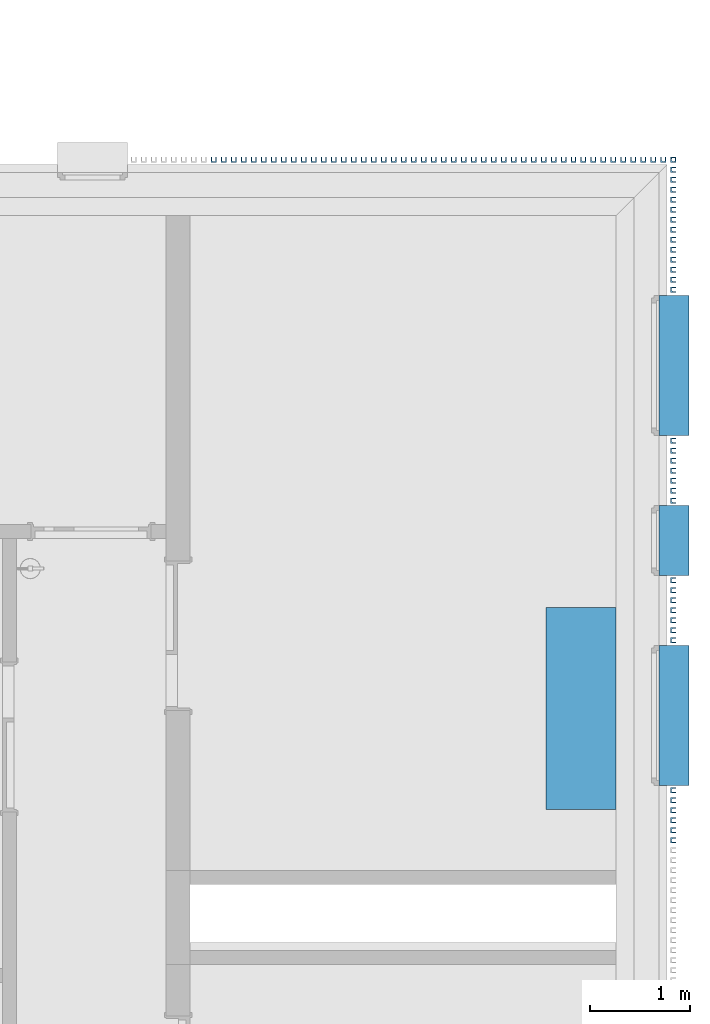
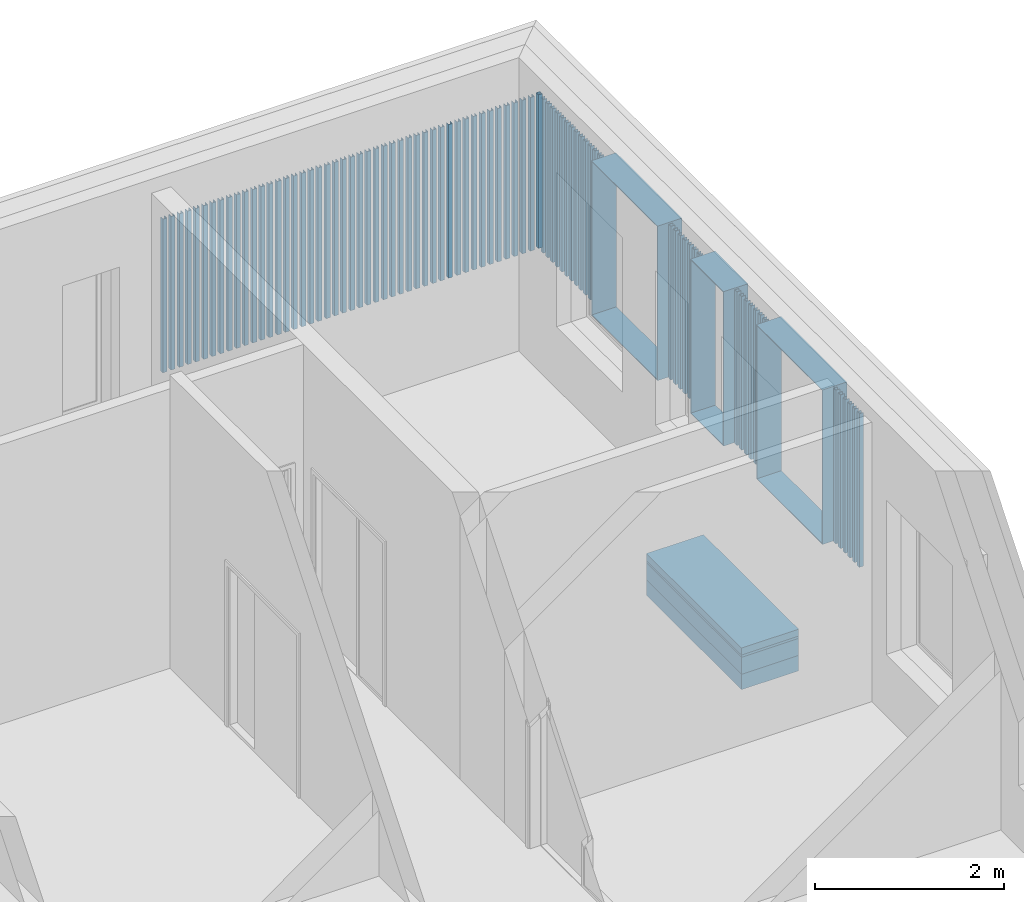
# One storey, part 48 of 100: 86 discrete accessories, 4 building element parts, 1 element without a shape of its own.
"""IFC2X3 building model written with IfcOpenShell, lengths in millimetres."""

from ifc_helpers import new_model, entity, si_unit, converted_unit, derived_unit, money_unit, direction, frame, origin_with_axes, place, context, subcontext, project, spatial, polyline, outline, extrude, faceted_brep, source, transform, mapped, material, type_object, element, aggregate, save


model = new_model("IFC2X3")

# Units and contexts
model_context = context("Model", 3, precision=0.01, world=origin_with_axes(), true_north=direction((0.0, 1.0)))
body_context = subcontext(model_context, "Body", "Model", "MODEL_VIEW")
ifc_project = project(units=[si_unit("LENGTHUNIT", "METRE", prefix="MILLI"), si_unit("AREAUNIT", "SQUARE_METRE"), si_unit("VOLUMEUNIT", "CUBIC_METRE"), converted_unit("PLANEANGLEUNIT", "DEGREE", entity("IfcPlaneAngleMeasure", 0.0174532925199), si_unit("PLANEANGLEUNIT", "RADIAN"), dimensions=[0, 0, 0, 0, 0, 0, 0]), si_unit("SOLIDANGLEUNIT", "STERADIAN"), money_unit("EUR"), converted_unit("TIMEUNIT", "Year", entity("IfcTimeMeasure", 31556926.0), si_unit("TIMEUNIT", "SECOND"), dimensions=[0, 0, 1, 0, 0, 0, 0]), si_unit("MASSUNIT", "GRAM", prefix="KILO"), si_unit("THERMODYNAMICTEMPERATUREUNIT", "DEGREE_CELSIUS"), si_unit("LUMINOUSINTENSITYUNIT", "LUMEN"), si_unit("ENERGYUNIT", "JOULE", prefix="MEGA"), derived_unit("THERMALCONDUCTANCEUNIT", [(si_unit("POWERUNIT", "WATT"), 1), (si_unit("LENGTHUNIT", "METRE"), -1), (si_unit("THERMODYNAMICTEMPERATUREUNIT", "KELVIN"), -1)]), derived_unit("SPECIFICHEATCAPACITYUNIT", [(si_unit("ENERGYUNIT", "JOULE"), 1), (si_unit("MASSUNIT", "GRAM", prefix="KILO"), -1), (si_unit("THERMODYNAMICTEMPERATUREUNIT", "KELVIN"), -1)]), derived_unit("MASSDENSITYUNIT", [(si_unit("MASSUNIT", "GRAM", prefix="KILO"), 1), (si_unit("VOLUMEUNIT", "CUBIC_METRE"), -1)])], contexts=[model_context])

# Site, building, storey
site_placement = place(None, origin_with_axes())
site = spatial("IfcSite", under=ifc_project, at=site_placement, Name="Politse- ja Piirivalveameti ning Päästeameti ühishoone", CompositionType="ELEMENT")
building_placement = place(site_placement, origin_with_axes())
building = spatial("IfcBuilding", under=site, at=building_placement, Name="Politse- ja Piirivalveameti ning Päästeameti ühishoone", CompositionType="ELEMENT")
storey_placement = place(building_placement, frame((0.0, 0.0, 3800.0), z_axis=(0.0, 0.0, 1.0), x_axis=(1.0, 0.0, 0.0)))
storey = spatial("IfcBuildingStorey", under=building, at=storey_placement, Name="Teine korrus", CompositionType="ELEMENT", Elevation=3800.0)

# Discrete accessories
ifc_material_1 = material(Name="SV-01_Krohv - Kips")
discrete_accessory_type_1 = type_object("IfcDiscreteAccessoryType", Name="Architrave 01 23")
shared_shape_1 = source(origin_with_axes(), body_context, "Body", "Brep", [
    faceted_brep([(-350.0, 0.0, -10.0), (350.0, 0.0, -10.0), (350.0, -300.182356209, -10.0), (-350.0, -300.182356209, -10.0), (-340.0, 0.0, 0.0), (340.0, 0.0, 0.0), (340.0, -300.182356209, 0.0), (-340.0, -300.182356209, 0.0)], [[[0, 1, 2, 3]], [[0, 4, 5, 1]], [[1, 5, 6, 2]], [[3, 2, 6, 7]], [[4, 0, 3, 7]], [[5, 4, 7, 6]]]),
    faceted_brep([(350.0, 0.0, -10.0), (350.0, 0.0, 1990.0), (350.0, -300.182356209, 1990.0), (350.0, -300.182356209, -10.0), (340.0, 0.0, 0.0), (340.0, 0.0, 1980.0), (340.0, -300.182356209, 1980.0), (340.0, -300.182356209, 0.0)], [[[0, 1, 2, 3]], [[0, 4, 5, 1]], [[1, 5, 6, 2]], [[3, 2, 6, 7]], [[4, 0, 3, 7]], [[5, 4, 7, 6]]]),
    faceted_brep([(350.0, 0.0, 1990.0), (-350.0, 0.0, 1990.0), (-350.0, -300.182356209, 1990.0), (350.0, -300.182356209, 1990.0), (340.0, 0.0, 1980.0), (-340.0, 0.0, 1980.0), (-340.0, -300.182356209, 1980.0), (340.0, -300.182356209, 1980.0)], [[[0, 1, 2, 3]], [[0, 4, 5, 1]], [[1, 5, 6, 2]], [[3, 2, 6, 7]], [[4, 0, 3, 7]], [[5, 4, 7, 6]]]),
    faceted_brep([(-350.0, 0.0, 1990.0), (-350.0, 0.0, -10.0), (-350.0, -300.182356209, -10.0), (-350.0, -300.182356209, 1990.0), (-340.0, 0.0, 1980.0), (-340.0, 0.0, 0.0), (-340.0, -300.182356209, 0.0), (-340.0, -300.182356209, 1980.0)], [[[0, 1, 2, 3]], [[0, 4, 5, 1]], [[1, 5, 6, 2]], [[3, 2, 6, 7]], [[4, 0, 3, 7]], [[5, 4, 7, 6]]]),
])
discrete_accessory_placement = place(storey_placement, frame((70090.5664257, 34249.9520832, 810.0), z_axis=(0.0, 0.0, 1.0), x_axis=(0.0, 1.0, 0.0)))
element("IfcDiscreteAccessory", 1, at=discrete_accessory_placement, inside=storey, type_object=discrete_accessory_type_1, material=ifc_material_1, Name="AKNARAAM 01", context=body_context, shape_type="MappedRepresentation", body=[
    mapped(shared_shape_1, transform((0.0, 0.0, 0.0))),
])
shared_shape_2 = source(origin_with_axes(), body_context, "Body", "Brep", [
    faceted_brep([(-700.0, 0.0, -10.0), (700.0, 0.0, -10.0), (700.0, -300.182356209, -10.0), (-700.0, -300.182356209, -10.0), (-690.0, 0.0, 0.0), (690.0, 0.0, 0.0), (690.0, -300.182356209, 0.0), (-690.0, -300.182356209, 0.0)], [[[0, 1, 2, 3]], [[0, 4, 5, 1]], [[1, 5, 6, 2]], [[3, 2, 6, 7]], [[4, 0, 3, 7]], [[5, 4, 7, 6]]]),
    faceted_brep([(700.0, 0.0, -10.0), (700.0, 0.0, 1990.0), (700.0, -300.182356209, 1990.0), (700.0, -300.182356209, -10.0), (690.0, 0.0, 0.0), (690.0, 0.0, 1980.0), (690.0, -300.182356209, 1980.0), (690.0, -300.182356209, 0.0)], [[[0, 1, 2, 3]], [[0, 4, 5, 1]], [[1, 5, 6, 2]], [[3, 2, 6, 7]], [[4, 0, 3, 7]], [[5, 4, 7, 6]]]),
    faceted_brep([(700.0, 0.0, 1990.0), (-700.0, 0.0, 1990.0), (-700.0, -300.182356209, 1990.0), (700.0, -300.182356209, 1990.0), (690.0, 0.0, 1980.0), (-690.0, 0.0, 1980.0), (-690.0, -300.182356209, 1980.0), (690.0, -300.182356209, 1980.0)], [[[0, 1, 2, 3]], [[0, 4, 5, 1]], [[1, 5, 6, 2]], [[3, 2, 6, 7]], [[4, 0, 3, 7]], [[5, 4, 7, 6]]]),
    faceted_brep([(-700.0, 0.0, 1990.0), (-700.0, 0.0, -10.0), (-700.0, -300.182356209, -10.0), (-700.0, -300.182356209, 1990.0), (-690.0, 0.0, 1980.0), (-690.0, 0.0, 0.0), (-690.0, -300.182356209, 0.0), (-690.0, -300.182356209, 1980.0)], [[[0, 1, 2, 3]], [[0, 4, 5, 1]], [[1, 5, 6, 2]], [[3, 2, 6, 7]], [[4, 0, 3, 7]], [[5, 4, 7, 6]]]),
])
for number, where, z_axis, x_axis, name in (
    (2, (70090.5664257, 32500.0702441, 810.0), (0.0, 0.0, 1.0), (0.0, 1.0, 0.0), "AKNARAAM 01"),
    (3, (70090.5664257, 35999.9520832, 810.0), (0.0, 0.0, 1.0), (0.0, 1.0, 0.0), "AKNARAAM 01"),
):
    element("IfcDiscreteAccessory", number, at=place(storey_placement, frame(where, z_axis=z_axis, x_axis=x_axis)), inside=storey, type_object=discrete_accessory_type_1, material=ifc_material_1, Name=name, context=body_context, shape_type="MappedRepresentation", body=[
        mapped(shared_shape_2, transform((0.0, 0.0, 0.0))),
    ])
ifc_material_2 = material(Name="ET-05_Teras")
discrete_accessory_type_2 = type_object("IfcDiscreteAccessoryType", Name="UAP Column 23")
shared_shape_3 = source(origin_with_axes(), body_context, "Body", "Brep", [
    faceted_brep([(25.0, -25.0, 0.0), (25.0, -20.0, 0.0), (25.0, -20.0, 1990.0), (25.0, -25.0, 1990.0), (-25.0, -25.0, 0.0), (-25.0, 25.0, 0.0), (25.0, 25.0, 0.0), (25.0, 20.0, 0.0), (-8.5, 20.0, 0.0), (-14.25, 18.4592921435, 0.0), (-18.4592921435, 14.25, 0.0), (-20.0, 8.5, 0.0), (-20.0, -8.5, 0.0), (-18.4592921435, -14.25, 0.0), (-14.25, -18.4592921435, 0.0), (-8.5, -20.0, 0.0), (-8.5, -20.0, 1990.0), (-14.25, -18.4592921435, 1990.0), (-18.4592921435, -14.25, 1990.0), (-20.0, -8.5, 1990.0), (-20.0, 8.5, 1990.0), (-18.4592921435, 14.25, 1990.0), (-14.25, 18.4592921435, 1990.0), (-8.5, 20.0, 1990.0), (25.0, 20.0, 1990.0), (25.0, 25.0, 1990.0), (-25.0, 25.0, 1990.0), (-25.0, -25.0, 1990.0)], [[[0, 1, 2, 3]], [[0, 4, 5, 6, 7, 8, 9, 10, 11, 12, 13, 14, 15, 1]], [[1, 15, 16, 2]], [[3, 2, 16, 17, 18, 19, 20, 21, 22, 23, 24, 25, 26, 27]], [[4, 0, 3, 27]], [[5, 4, 27, 26]], [[6, 5, 26, 25]], [[7, 6, 25, 24]], [[8, 7, 24, 23]], [[9, 8, 23, 22]], [[10, 9, 22, 21]], [[11, 10, 21, 20]], [[12, 11, 20, 19]], [[13, 12, 19, 18]], [[14, 13, 18, 17]], [[15, 14, 17, 16]]]),
])
for number, where, z_axis, x_axis in (
    (4, (70235.2095212, 31250.0702441, 810.000049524), (0.0, 0.0, 1.0), (1.0, 0.0, 0.0)),
    (5, (70235.2095212, 31350.0702441, 810.000049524), (0.0, 0.0, 1.0), (1.0, 0.0, 0.0)),
    (6, (70235.2095212, 31450.0702441, 810.000049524), (0.0, 0.0, 1.0), (1.0, 0.0, 0.0)),
    (7, (70235.2095212, 31550.0702441, 810.000049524), (0.0, 0.0, 1.0), (1.0, 0.0, 0.0)),
    (8, (70235.2095212, 31650.0702441, 810.000049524), (0.0, 0.0, 1.0), (1.0, 0.0, 0.0)),
    (9, (70235.2095212, 31750.0702441, 810.000049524), (0.0, 0.0, 1.0), (1.0, 0.0, 0.0)),
    (10, (70235.2095212, 33249.9520832, 810.000049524), (0.0, 0.0, 1.0), (1.0, 0.0, 0.0)),
    (11, (70235.2095212, 33349.9520832, 810.000049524), (0.0, 0.0, 1.0), (1.0, 0.0, 0.0)),
    (12, (70235.2095212, 33449.9520832, 810.000049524), (0.0, 0.0, 1.0), (1.0, 0.0, 0.0)),
    (13, (70235.2095212, 33549.9520832, 810.000049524), (0.0, 0.0, 1.0), (1.0, 0.0, 0.0)),
    (14, (70235.2095212, 33649.9520832, 810.000049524), (0.0, 0.0, 1.0), (1.0, 0.0, 0.0)),
    (15, (70235.2095212, 33749.9520832, 810.000049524), (0.0, 0.0, 1.0), (1.0, 0.0, 0.0)),
    (16, (70235.2095212, 33849.9520832, 810.000049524), (0.0, 0.0, 1.0), (1.0, 0.0, 0.0)),
    (17, (70235.2095212, 34649.9520832, 810.000049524), (0.0, 0.0, 1.0), (1.0, 0.0, 0.0)),
    (18, (70235.2095212, 34749.9520832, 810.000049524), (0.0, 0.0, 1.0), (1.0, 0.0, 0.0)),
    (19, (70235.2095212, 34849.9520832, 810.000049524), (0.0, 0.0, 1.0), (1.0, 0.0, 0.0)),
    (20, (70235.2095212, 34949.9520832, 810.000049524), (0.0, 0.0, 1.0), (1.0, 0.0, 0.0)),
    (21, (70235.2095212, 35049.9520832, 810.000049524), (0.0, 0.0, 1.0), (1.0, 0.0, 0.0)),
    (22, (70235.2095212, 35149.9520832, 810.000049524), (0.0, 0.0, 1.0), (1.0, 0.0, 0.0)),
    (23, (70235.2095212, 35249.9520832, 810.000049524), (0.0, 0.0, 1.0), (1.0, 0.0, 0.0)),
    (24, (70235.2095212, 37259.9520832, 810.000049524), (0.0, 0.0, 1.0), (1.0, 0.0, 0.0)),
    (25, (70235.2095212, 37159.9520832, 810.000049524), (0.0, 0.0, 1.0), (1.0, 0.0, 0.0)),
    (26, (70235.2095212, 37059.9520832, 810.000049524), (0.0, 0.0, 1.0), (1.0, 0.0, 0.0)),
    (27, (70235.2095212, 36959.9520832, 810.000049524), (0.0, 0.0, 1.0), (1.0, 0.0, 0.0)),
    (28, (70235.2095212, 36859.9520832, 810.000049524), (0.0, 0.0, 1.0), (1.0, 0.0, 0.0)),
    (29, (70235.2095212, 36759.9520832, 810.000049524), (0.0, 0.0, 1.0), (1.0, 0.0, 0.0)),
    (30, (70235.2095212, 37859.9520832, 810.000049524), (0.0, 0.0, 1.0), (1.0, 0.0, 0.0)),
    (31, (70235.2095212, 37759.9520832, 810.000049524), (0.0, 0.0, 1.0), (1.0, 0.0, 0.0)),
    (32, (70235.2095212, 37659.9520832, 810.000049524), (0.0, 0.0, 1.0), (1.0, 0.0, 0.0)),
    (33, (70235.2095212, 37559.9520832, 810.000049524), (0.0, 0.0, 1.0), (1.0, 0.0, 0.0)),
    (34, (70235.2095212, 37459.9520832, 810.000049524), (0.0, 0.0, 1.0), (1.0, 0.0, 0.0)),
    (35, (70235.2095212, 37359.9520832, 810.000049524), (0.0, 0.0, 1.0), (1.0, 0.0, 0.0)),
    (36, (70235.2095212, 38059.9520832, 810.000049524), (0.0, 0.0, 1.0), (1.0, 0.0, 0.0)),
    (37, (70235.2095212, 37959.9520832, 810.000049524), (0.0, 0.0, 1.0), (1.0, 0.0, 0.0)),
    (38, (65735.2095212, 38059.9520832, 810.000049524), (0.0, 0.0, 1.0), (0.0, 1.0, 0.0)),
    (39, (65635.2095212, 38059.9520832, 810.000049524), (0.0, 0.0, 1.0), (0.0, 1.0, 0.0)),
    (40, (69635.2095212, 38059.9520832, 810.000049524), (0.0, 0.0, 1.0), (0.0, 1.0, 0.0)),
    (41, (69435.2095212, 38059.9520832, 810.000049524), (0.0, 0.0, 1.0), (0.0, 1.0, 0.0)),
    (42, (69535.2095212, 38059.9520832, 810.000049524), (0.0, 0.0, 1.0), (0.0, 1.0, 0.0)),
    (43, (69335.2095212, 38059.9520832, 810.000049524), (0.0, 0.0, 1.0), (0.0, 1.0, 0.0)),
    (44, (69235.2095212, 38059.9520832, 810.000049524), (0.0, 0.0, 1.0), (0.0, 1.0, 0.0)),
    (45, (69135.2095212, 38059.9520832, 810.000049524), (0.0, 0.0, 1.0), (0.0, 1.0, 0.0)),
    (46, (69735.2095212, 38059.9520832, 810.000049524), (0.0, 0.0, 1.0), (0.0, 1.0, 0.0)),
    (47, (70235.2095212, 38059.9520832, 810.000049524), (0.0, 0.0, 1.0), (1.0, 0.0, 0.0)),
    (48, (69835.2095212, 38059.9520832, 810.000049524), (0.0, 0.0, 1.0), (0.0, 1.0, 0.0)),
    (49, (70035.2095212, 38059.9520832, 810.000049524), (0.0, 0.0, 1.0), (0.0, 1.0, 0.0)),
    (50, (69935.2095212, 38059.9520832, 810.000049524), (0.0, 0.0, 1.0), (0.0, 1.0, 0.0)),
    (51, (70135.2095212, 38059.9520832, 810.000049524), (0.0, 0.0, 1.0), (0.0, 1.0, 0.0)),
    (52, (70235.2095212, 38059.9520832, 810.000049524), (0.0, 0.0, 1.0), (0.0, 1.0, 0.0)),
    (53, (69135.2095212, 38059.9520832, 810.000049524), (0.0, 0.0, 1.0), (0.0, 1.0, 0.0)),
    (54, (69035.2095212, 38059.9520832, 810.000049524), (0.0, 0.0, 1.0), (0.0, 1.0, 0.0)),
    (55, (68935.2095212, 38059.9520832, 810.000049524), (0.0, 0.0, 1.0), (0.0, 1.0, 0.0)),
    (56, (68835.2095212, 38059.9520832, 810.000049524), (0.0, 0.0, 1.0), (0.0, 1.0, 0.0)),
    (57, (68735.2095212, 38059.9520832, 810.000049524), (0.0, 0.0, 1.0), (0.0, 1.0, 0.0)),
    (58, (68635.2095212, 38059.9520832, 810.000049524), (0.0, 0.0, 1.0), (0.0, 1.0, 0.0)),
    (59, (68535.2095212, 38059.9520832, 810.000049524), (0.0, 0.0, 1.0), (0.0, 1.0, 0.0)),
    (60, (68435.2095212, 38059.9520832, 810.000049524), (0.0, 0.0, 1.0), (0.0, 1.0, 0.0)),
    (61, (68335.2095212, 38059.9520832, 810.000049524), (0.0, 0.0, 1.0), (0.0, 1.0, 0.0)),
    (62, (68235.2095212, 38059.9520832, 810.000049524), (0.0, 0.0, 1.0), (0.0, 1.0, 0.0)),
    (63, (68135.2095212, 38059.9520832, 810.000049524), (0.0, 0.0, 1.0), (0.0, 1.0, 0.0)),
    (64, (68035.2095212, 38059.9520832, 810.000049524), (0.0, 0.0, 1.0), (0.0, 1.0, 0.0)),
    (65, (67935.2095212, 38059.9520832, 810.000049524), (0.0, 0.0, 1.0), (0.0, 1.0, 0.0)),
    (66, (67835.2095212, 38059.9520832, 810.000049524), (0.0, 0.0, 1.0), (0.0, 1.0, 0.0)),
    (67, (67735.2095212, 38059.9520832, 810.000049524), (0.0, 0.0, 1.0), (0.0, 1.0, 0.0)),
    (68, (67635.2095212, 38059.9520832, 810.000049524), (0.0, 0.0, 1.0), (0.0, 1.0, 0.0)),
    (69, (67535.2095212, 38059.9520832, 810.000049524), (0.0, 0.0, 1.0), (0.0, 1.0, 0.0)),
    (70, (67435.2095212, 38059.9520832, 810.000049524), (0.0, 0.0, 1.0), (0.0, 1.0, 0.0)),
    (71, (67335.2095212, 38059.9520832, 810.000049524), (0.0, 0.0, 1.0), (0.0, 1.0, 0.0)),
    (72, (67235.2095212, 38059.9520832, 810.000049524), (0.0, 0.0, 1.0), (0.0, 1.0, 0.0)),
    (73, (67135.2095212, 38059.9520832, 810.000049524), (0.0, 0.0, 1.0), (0.0, 1.0, 0.0)),
    (74, (67035.2095212, 38059.9520832, 810.000049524), (0.0, 0.0, 1.0), (0.0, 1.0, 0.0)),
    (75, (66935.2095212, 38059.9520832, 810.000049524), (0.0, 0.0, 1.0), (0.0, 1.0, 0.0)),
    (76, (66835.2095212, 38059.9520832, 810.000049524), (0.0, 0.0, 1.0), (0.0, 1.0, 0.0)),
    (77, (66735.2095212, 38059.9520832, 810.000049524), (0.0, 0.0, 1.0), (0.0, 1.0, 0.0)),
    (78, (66635.2095212, 38059.9520832, 810.000049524), (0.0, 0.0, 1.0), (0.0, 1.0, 0.0)),
    (79, (66535.2095212, 38059.9520832, 810.000049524), (0.0, 0.0, 1.0), (0.0, 1.0, 0.0)),
    (80, (66435.2095212, 38059.9520832, 810.000049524), (0.0, 0.0, 1.0), (0.0, 1.0, 0.0)),
    (81, (66335.2095212, 38059.9520832, 810.000049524), (0.0, 0.0, 1.0), (0.0, 1.0, 0.0)),
    (82, (66235.2095212, 38059.9520832, 810.000049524), (0.0, 0.0, 1.0), (0.0, 1.0, 0.0)),
    (83, (66135.2095212, 38059.9520832, 810.000049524), (0.0, 0.0, 1.0), (0.0, 1.0, 0.0)),
    (84, (66035.2095212, 38059.9520832, 810.000049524), (0.0, 0.0, 1.0), (0.0, 1.0, 0.0)),
    (85, (65935.2095212, 38059.9520832, 810.000049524), (0.0, 0.0, 1.0), (0.0, 1.0, 0.0)),
    (86, (65835.2095212, 38059.9520832, 810.000049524), (0.0, 0.0, 1.0), (0.0, 1.0, 0.0)),
):
    element("IfcDiscreteAccessory", number, at=place(storey_placement, frame(where, z_axis=z_axis, x_axis=x_axis)), inside=storey, type_object=discrete_accessory_type_2, material=ifc_material_2, Name="Fassaadiribid", context=body_context, shape_type="MappedRepresentation", body=[
        mapped(shared_shape_3, transform((0.0, 0.0, 0.0))),
    ])

# Slab, building element parts
slab_type = type_object("IfcSlabType", Name="VL-07_Vahelagi büroo õhuhaare 540", PredefinedType="NOTDEFINED")
slab_placement = place(storey_placement, frame((69660.5664257, 31560.1986087, 0.0), z_axis=(0.0, 0.0, 1.0), x_axis=(1.0, 0.0, 0.0)))
slab = element("IfcSlab", 87, at=slab_placement, inside=storey, type_object=slab_type, Name="VL-07", PredefinedType="NOTDEFINED")
ifc_material_3 = material(Name="SOJ-02_Soojustus - Fiiber Kõva")
building_element_part_1_placement = place(slab_placement, origin_with_axes())
building_element_part_1 = element("IfcBuildingElementPart", 88, at=building_element_part_1_placement, material=ifc_material_3, Name="SOJ-02_Soojustus - Fiiber Kõva", context=body_context, shape_type="SweptSolid", body=[
    extrude(outline(polyline([(0.0, 0.0), (0.0, 2019.87163543), (-700.143233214, 2019.87163543), (-700.143233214, 0.0), (0.0, 0.0)])), frame((0.0, 0.0, -540.0), z_axis=(0.0, 0.0, 1.0), x_axis=(1.0, 0.0, 0.0)), (0.0, 0.0, 1.0), 200.0),
])
ifc_material_4 = material(Name="KON-06_Raudbetoon - Konstruktsioon")
building_element_part_2_placement = place(slab_placement, origin_with_axes())
building_element_part_2 = element("IfcBuildingElementPart", 89, at=building_element_part_2_placement, material=ifc_material_4, Name="KON-06_Raudbetoon - Konstruktsioon", context=body_context, shape_type="SweptSolid", body=[
    extrude(outline(polyline([(0.0, 0.0), (0.0, 2019.87163543), (-700.143233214, 2019.87163543), (-700.143233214, 0.0), (0.0, 0.0)])), frame((0.0, 0.0, -340.0), z_axis=(0.0, 0.0, 1.0), x_axis=(1.0, 0.0, 0.0)), (0.0, 0.0, 1.0), 220.0),
])
ifc_material_5 = material(Name="SOJ-04_Soojustus - Mineraal Kõva")
building_element_part_3_placement = place(slab_placement, origin_with_axes())
building_element_part_3 = element("IfcBuildingElementPart", 90, at=building_element_part_3_placement, material=ifc_material_5, Name="SOJ-04_Soojustus - Mineraal Kõva", context=body_context, shape_type="SweptSolid", body=[
    extrude(outline(polyline([(0.0, 0.0), (0.0, 2019.87163543), (-700.143233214, 2019.87163543), (-700.143233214, 0.0), (0.0, 0.0)])), frame((0.0, 0.0, -120.0), z_axis=(0.0, 0.0, 1.0), x_axis=(1.0, 0.0, 0.0)), (0.0, 0.0, 1.0), 30.0),
])
ifc_material_6 = material(Name="VKR-01_Betoon")
building_element_part_4_placement = place(slab_placement, origin_with_axes())
building_element_part_4 = element("IfcBuildingElementPart", 91, at=building_element_part_4_placement, material=ifc_material_6, Name="VKR-01_Betoon", context=body_context, shape_type="SweptSolid", body=[
    extrude(outline(polyline([(0.0, 0.0), (0.0, 2019.87163543), (-700.143233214, 2019.87163543), (-700.143233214, 0.0), (0.0, 0.0)])), frame((0.0, 0.0, -90.0), z_axis=(0.0, 0.0, 1.0), x_axis=(1.0, 0.0, 0.0)), (0.0, 0.0, 1.0), 90.0),
])
aggregate(slab, [building_element_part_1, building_element_part_2, building_element_part_3, building_element_part_4])

save(model, "model.ifc")
